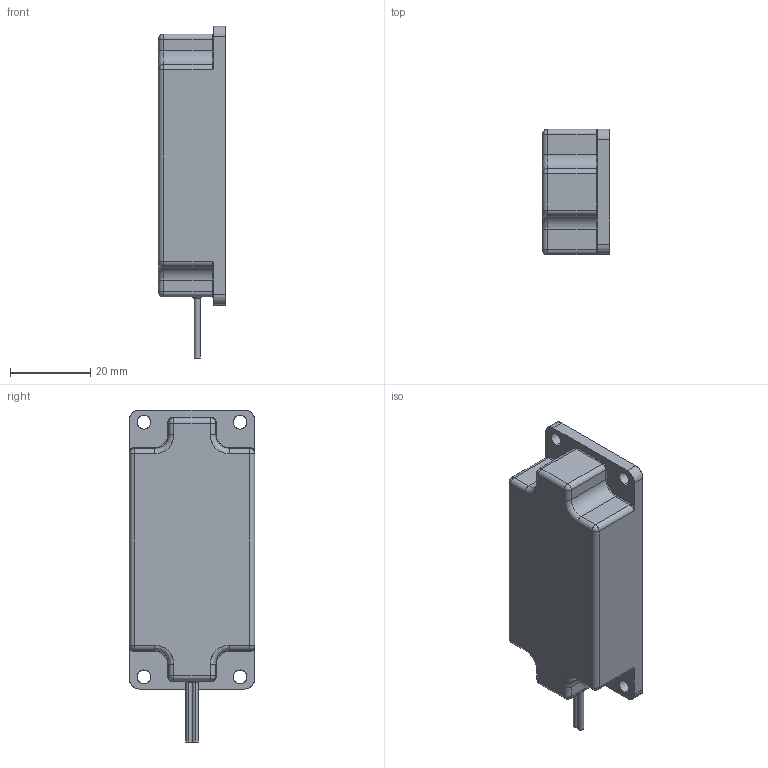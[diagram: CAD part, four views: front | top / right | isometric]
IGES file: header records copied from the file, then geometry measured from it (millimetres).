
Start section: SolidWorks IGES file using analytic representation for surfaces
Global section: file name: C:\DGE-005, Hacked_Range_Finder\Mono_Enclosed_Speaker_3W-4Ohm\Mono_Enclosed_Speaker_3W-4Ohm.IGS; native system: SolidWorks 2020; preprocessor: SolidWorks 2020; author: JPMBA; date: 220518.125837; units: inch
Bounding box: 16.76 x 31.24 x 82.8 mm (x, y, z)
Surface area: 8157.8 mm2 (no closed solid volume)
Topology: 0 solids, 0 shells, 175 faces, 1592 edges, 1583 vertices
Faces by surface type: bspline 90, revolution 85
